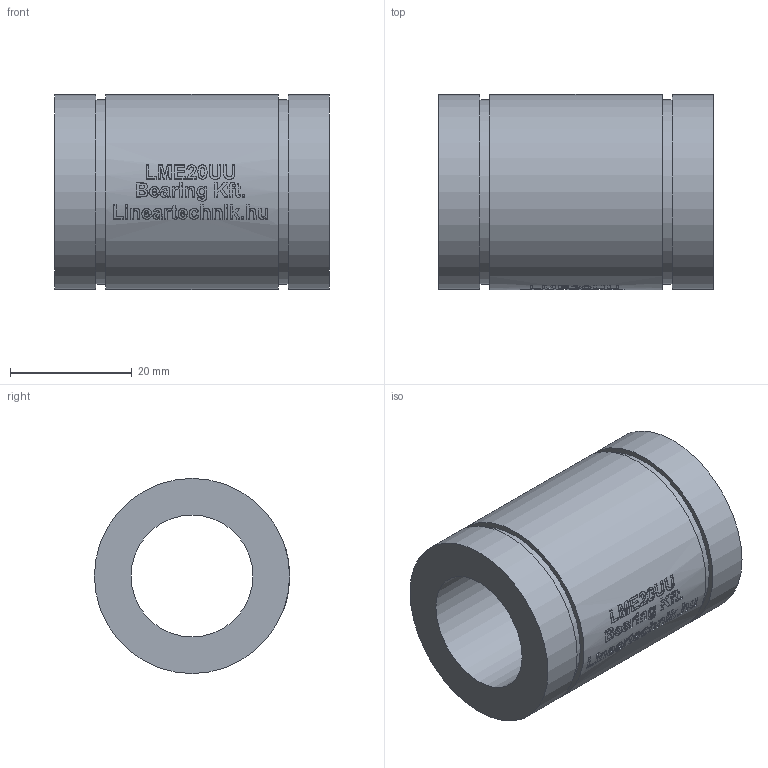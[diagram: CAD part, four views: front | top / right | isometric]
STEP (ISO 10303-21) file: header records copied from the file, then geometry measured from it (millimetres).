
FILE_DESCRIPTION(/* description */ (''),/* implementation_level */ '2;1');
FILE_NAME(/* name */ 'LME20UU',/* time_stamp */ '2019-05-17T10:33:12+02:00',/* author */ ('VĂ©gh MĂˇtĂ©'),/* organization */ ('Bearing Kft'),/* preprocessor_version */ 'ST-DEVELOPER v16.7',/* originating_system */ 'DEX',/* authorisation */ $);
FILE_SCHEMA (('AUTOMOTIVE_DESIGN {1 0 10303 214 3 1 1}'));
Length unit declared in the file: millimetre
Products named in the file (1): LME20UU
Bounding box: 45 x 32 x 32 mm (x, y, z)
Volume: 21782 mm3; surface area: 8677.5 mm2
Topology: 1 solids, 1 shells, 311 faces, 779 edges, 520 vertices
Faces by surface type: plane 166, bspline 93, cylinder 52
Full cylindrical faces by diameter (mm): 20 x1, 30.3 x2, 32 x3
Entity records: 17337 total; most frequent: CARTESIAN_POINT 10384, ORIENTED_EDGE 1536, DIRECTION 1166, EDGE_CURVE 768, VERTEX_POINT 518, LINE 428, VECTOR 428, EDGE_LOOP 372
